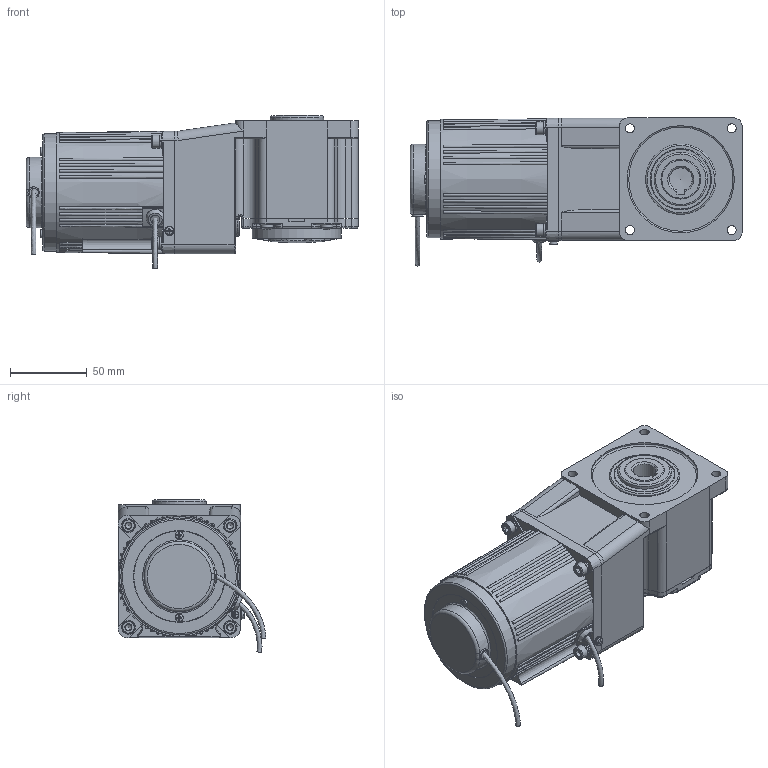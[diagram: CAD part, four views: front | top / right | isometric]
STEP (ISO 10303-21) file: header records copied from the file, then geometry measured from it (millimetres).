
FILE_DESCRIPTION(/* description */ (''),/* implementation_level */ '2;1');
FILE_NAME(/* name */ '80+中空直角-调速-25-40W 新版.stp',/* time_stamp */ '2025-03-24T15:04:34+08:00',/* author */ (''),/* organization */ (''),/* preprocessor_version */ 'ST-DEVELOPER v18.102',/* originating_system */ 'SIEMENS PLM Software NX 2027',/* authorisation */ '');
FILE_SCHEMA (('AP203_CONFIGURATION_CONTROLLED_3D_DESIGN_OF_MECHANICAL_PARTS_AND_ASSEMBLIES_MIM_LF { 1 0 10303 403 2 1 2}'));
Length unit declared in the file: millimetre
Products named in the file (1): 4RK25-40CC·R-4GN3-20K-C·10L_stp_objects
Bounding box: 217 x 96.6 x 100.35 mm (x, y, z)
Volume: 1112906.5 mm3; surface area: 127314.7 mm2
Topology: 18 solids, 19 shells, 1014 faces, 2429 edges, 1515 vertices
Faces by surface type: plane 424, cylinder 256, bspline 126, cone 96, torus 90, sphere 18, revolution 4
Full cylindrical faces by diameter (mm): 2.5 x2, 2.6 x1, 2.7 x1, 3.2 x1, 3.5 x2, 4.2 x4, 4.4 x1, 4.826 x4, 5 x9, 5.1 x3, 5.3 x4, 5.8 x1, 6 x10, 7.4 x1, 8 x4, 8.2 x1, 8.5 x4, 9 x4, 10.5 x1, 19 x1, 25 x1, 26 x3, 35 x1, 40 x2, 40.5 x1, 46 x2, 52 x1, 52.5 x1, 56 x1, 58 x1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
Entity records: 34910 total; most frequent: CARTESIAN_POINT 13617, ORIENTED_EDGE 4364, DIRECTION 3941, EDGE_CURVE 2182, AXIS2_PLACEMENT_3D 1614, VERTEX_POINT 1433, EDGE_LOOP 1262, ADVANCED_FACE 1011
